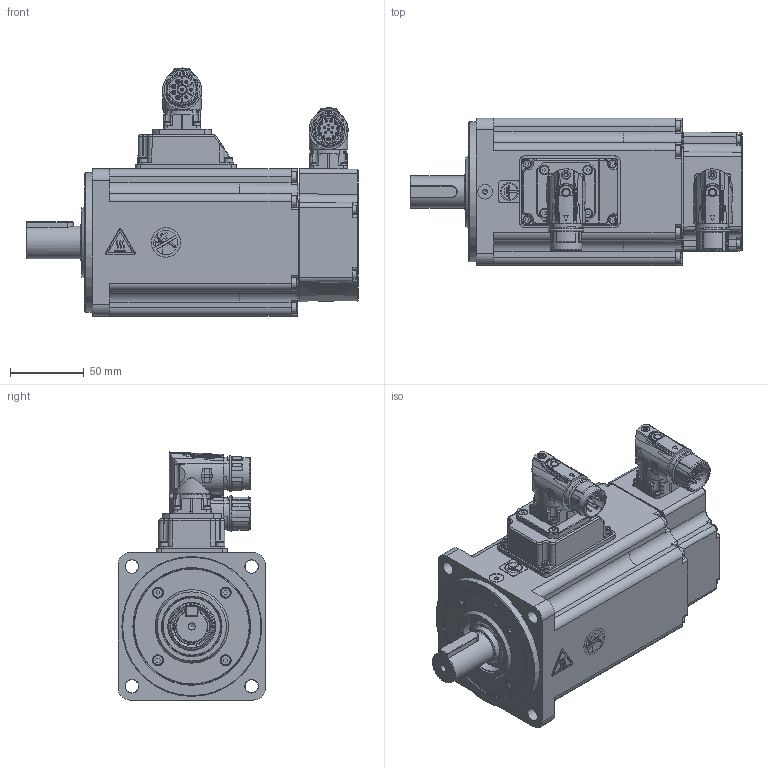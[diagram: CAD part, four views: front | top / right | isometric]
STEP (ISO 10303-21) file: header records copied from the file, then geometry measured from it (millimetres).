
FILE_DESCRIPTION( ( 'Unknown' ), '1' );
FILE_NAME( 'U:/05_Progetto TCE/010-TCE motor drawings/TCE100/vuoti/TCE100 4A XX 3 A2 1 C2.stp', 'Unknown', ( 'Unknown' ), ( 'Unknown' ), 'PSStep 17.0.49', 'Unknown', ' ' );
FILE_SCHEMA( ( 'AUTOMOTIVE_DESIGN { 1 0 10303 214 1 1 1 1 }' ) );
Length unit declared in the file: millimetre
Products named in the file (15): 005911000430
Bounding box: 225.5 x 100.3 x 168.5 mm (x, y, z)
Volume: 739321.9 mm3; surface area: 262117.6 mm2
Topology: 15 solids, 88 shells, 3005 faces, 7520 edges, 4849 vertices
Faces by surface type: plane 1471, cylinder 738, cone 291, bspline 194, torus 162, sphere 111, extrusion 38
Full cylindrical faces by diameter (mm): 0.5 x1, 1 x21, 1.2 x17, 1.4 x4, 1.7 x2, 2 x4, 2.013 x4, 2.2 x2, 2.459 x24, 2.5 x8, 2.6 x4, 2.8 x4, 3 x29, 3.2 x1, 3.242 x41, 3.5 x8, 4 x21, 4.4 x4, 4.5 x14, 4.7 x4, 4.917 x1, 5.5 x11, 5.8 x1, 5.9 x2, 6.8 x1, 7 x16, 7.5 x4, 8 x6, 10 x1, 11 x1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
Entity records: 118371 total; most frequent: CARTESIAN_POINT 30565, DIRECTION 13460, ORIENTED_EDGE 12988, EDGE_CURVE 6494, AXIS2_PLACEMENT_3D 5049, VERTEX_POINT 4585, EDGE_LOOP 3960, FACE_OUTER_BOUND 3451
